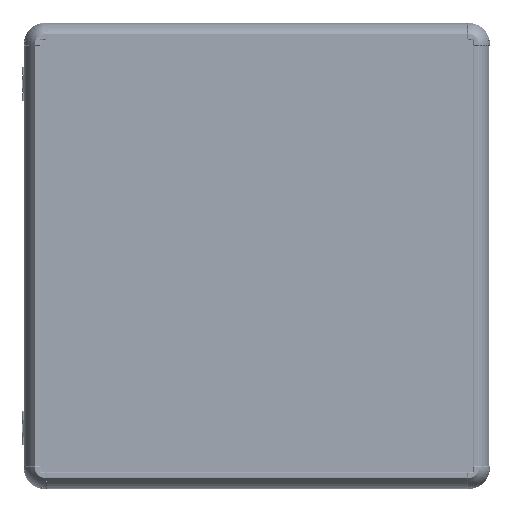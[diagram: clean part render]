
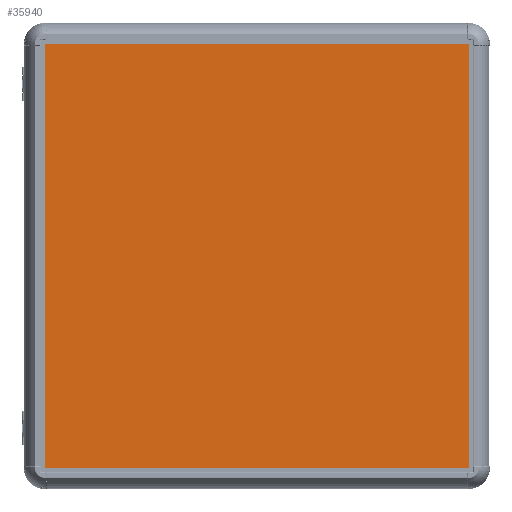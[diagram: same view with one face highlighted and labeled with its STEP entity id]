
A CAD part, top view. The second image highlights one B-rep face of the part: STEP entity #35940.
In plain terms, the highlighted planar face has unit normal (0, 0, 1).
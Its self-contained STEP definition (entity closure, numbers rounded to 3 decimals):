
#742 = LINE ( 'NONE', #4040, #88322 ) ;
#2748 = CARTESIAN_POINT ( 'NONE',  ( 0., 0., 2. ) ) ;
#3855 = PLANE ( 'NONE',  #91356 ) ;
#4040 = CARTESIAN_POINT ( 'NONE',  ( -250., 250., 2. ) ) ;
#24065 = CARTESIAN_POINT ( 'NONE',  ( -250., 250., 2. ) ) ;
#28615 = CARTESIAN_POINT ( 'NONE',  ( -250., -250., 2. ) ) ;
#35940 = ADVANCED_FACE ( 'NONE', ( #52181 ), #3855, .T. ) ;
#37749 = CARTESIAN_POINT ( 'NONE',  ( -250., 250., 2. ) ) ;
#46647 = CARTESIAN_POINT ( 'NONE',  ( -250., -250., 2. ) ) ;
#52181 = FACE_OUTER_BOUND ( 'NONE', #77888, .T. ) ;
#58931 = EDGE_CURVE ( 'NONE', #197387, #80653, #102038, .T. ) ;
#64409 = CARTESIAN_POINT ( 'NONE',  ( 250., 250., 2. ) ) ;
#70804 = DIRECTION ( 'NONE',  ( 1., 0., 0. ) ) ;
#77888 = EDGE_LOOP ( 'NONE', ( #144234, #106513, #122663, #125745 ) ) ;
#80653 = VERTEX_POINT ( 'NONE', #64409 ) ;
#84418 = CARTESIAN_POINT ( 'NONE',  ( 250., -250., 2. ) ) ;
#88322 = VECTOR ( 'NONE', #205061, 1000. ) ;
#91356 = AXIS2_PLACEMENT_3D ( 'NONE', #2748, #117004, #70804 ) ;
#100951 = DIRECTION ( 'NONE',  ( 0., 1., 0. ) ) ;
#102038 = LINE ( 'NONE', #216359, #178449 ) ;
#105514 = VERTEX_POINT ( 'NONE', #24065 ) ;
#106513 = ORIENTED_EDGE ( 'NONE', *, *, #171664, .T. ) ;
#117004 = DIRECTION ( 'NONE',  ( 0., 0., 1. ) ) ;
#121971 = VERTEX_POINT ( 'NONE', #46647 ) ;
#122663 = ORIENTED_EDGE ( 'NONE', *, *, #141490, .T. ) ;
#125745 = ORIENTED_EDGE ( 'NONE', *, *, #129985, .T. ) ;
#127270 = VECTOR ( 'NONE', #163564, 1000. ) ;
#129985 = EDGE_CURVE ( 'NONE', #121971, #197387, #197795, .T. ) ;
#141490 = EDGE_CURVE ( 'NONE', #105514, #121971, #742, .T. ) ;
#144234 = ORIENTED_EDGE ( 'NONE', *, *, #58931, .T. ) ;
#163564 = DIRECTION ( 'NONE',  ( 1., 0., 0. ) ) ;
#171664 = EDGE_CURVE ( 'NONE', #80653, #105514, #207973, .T. ) ;
#171685 = DIRECTION ( 'NONE',  ( -1., 0., 0. ) ) ;
#178449 = VECTOR ( 'NONE', #100951, 1000. ) ;
#179730 = VECTOR ( 'NONE', #171685, 1000. ) ;
#197387 = VERTEX_POINT ( 'NONE', #84418 ) ;
#197795 = LINE ( 'NONE', #28615, #127270 ) ;
#205061 = DIRECTION ( 'NONE',  ( 0., -1., 0. ) ) ;
#207973 = LINE ( 'NONE', #37749, #179730 ) ;
#216359 = CARTESIAN_POINT ( 'NONE',  ( 250., 250., 2. ) ) ;
